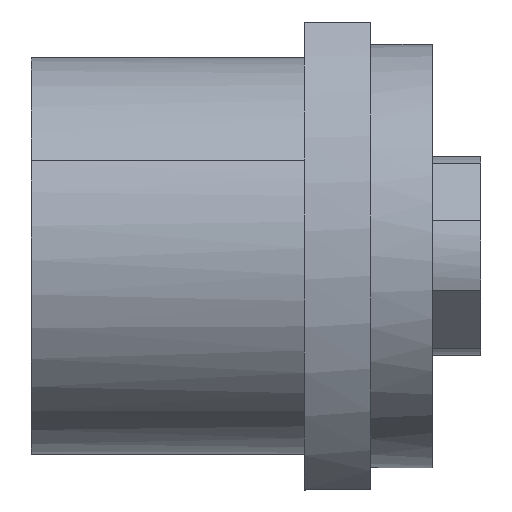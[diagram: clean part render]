
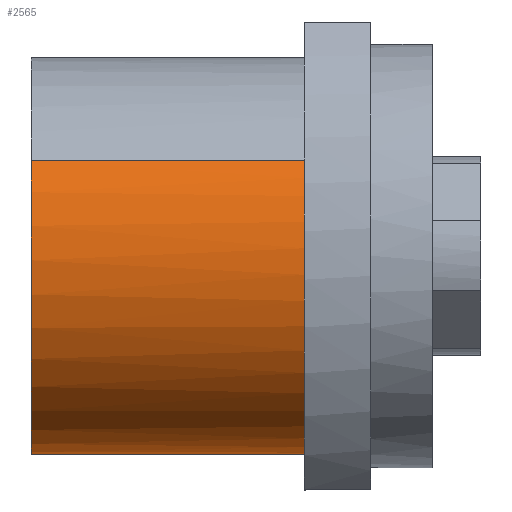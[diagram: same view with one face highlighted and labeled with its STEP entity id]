
A CAD part, top view. The second image highlights one B-rep face of the part: STEP entity #2565.
In plain terms, the highlighted cylindrical face has radius 45 mm (diameter 90 mm), a partial arc.
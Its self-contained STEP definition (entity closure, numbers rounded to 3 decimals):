
#1683=CARTESIAN_POINT('Vertex',(-15.,21.574,39.491)) ;
#1685=CARTESIAN_POINT('Vertex',(-15.,-21.574,-39.491)) ;
#1689=CARTESIAN_POINT('Control Point',(-15.,-21.574,-39.491)) ;
#1690=CARTESIAN_POINT('Control Point',(-15.,-25.323,-37.443)) ;
#1691=CARTESIAN_POINT('Control Point',(-15.,-28.829,-34.95)) ;
#1692=CARTESIAN_POINT('Control Point',(-15.,-32.022,-32.05)) ;
#1693=CARTESIAN_POINT('Control Point',(-15.,-37.658,-25.549)) ;
#1694=CARTESIAN_POINT('Control Point',(-15.,-41.616,-17.909)) ;
#1695=CARTESIAN_POINT('Control Point',(-15.,-43.131,-13.87)) ;
#1696=CARTESIAN_POINT('Control Point',(-15.,-45.172,-5.511)) ;
#1697=CARTESIAN_POINT('Control Point',(-15.,-45.2,3.093)) ;
#1698=CARTESIAN_POINT('Control Point',(-15.,-44.701,7.377)) ;
#1699=CARTESIAN_POINT('Control Point',(-15.,-42.697,15.744)) ;
#1700=CARTESIAN_POINT('Control Point',(-15.,-38.789,23.41)) ;
#1701=CARTESIAN_POINT('Control Point',(-15.,-36.387,26.993)) ;
#1702=CARTESIAN_POINT('Control Point',(-15.,-30.779,33.519)) ;
#1703=CARTESIAN_POINT('Control Point',(-15.,-23.8,38.551)) ;
#1704=CARTESIAN_POINT('Control Point',(-15.,-20.026,40.64)) ;
#1705=CARTESIAN_POINT('Control Point',(-15.,-12.056,43.881)) ;
#1706=CARTESIAN_POINT('Control Point',(-15.,-3.548,45.167)) ;
#1707=CARTESIAN_POINT('Control Point',(-15.,0.763,45.3)) ;
#1708=CARTESIAN_POINT('Control Point',(-15.,7.697,44.685)) ;
#1709=CARTESIAN_POINT('Control Point',(-15.,14.359,42.77)) ;
#1710=CARTESIAN_POINT('Control Point',(-15.,16.846,41.853)) ;
#1711=CARTESIAN_POINT('Control Point',(-15.,19.257,40.757)) ;
#1712=CARTESIAN_POINT('Control Point',(-15.,21.574,39.491)) ;
#2523=CARTESIAN_POINT('Line Origine',(-81.281,21.574,39.491)) ;
#2527=CARTESIAN_POINT('Vertex',(-77.,21.574,39.491)) ;
#2530=CARTESIAN_POINT('Line Origine',(-81.281,-21.574,-39.491)) ;
#2534=CARTESIAN_POINT('Vertex',(-77.,-21.574,-39.491)) ;
#2549=CARTESIAN_POINT('Axis2P3D Location',(-81.281,0.,0.)) ;
#2554=CARTESIAN_POINT('Axis2P3D Location',(-77.,0.,0.)) ;
#2524=DIRECTION('Vector Direction',(-1.,0.,0.)) ;
#2531=DIRECTION('Vector Direction',(-1.,0.,0.)) ;
#2550=DIRECTION('Axis2P3D Direction',(-1.,0.,0.)) ;
#2551=DIRECTION('Axis2P3D XDirection',(0.,-0.479,-0.878)) ;
#2555=DIRECTION('Axis2P3D Direction',(-1.,0.,0.)) ;
#2552=AXIS2_PLACEMENT_3D('Cylinder Axis2P3D',#2549,#2550,#2551) ;
#2556=AXIS2_PLACEMENT_3D('Circle Axis2P3D',#2554,#2555,$) ;
#2560=ORIENTED_EDGE('',*,*,#2536,.F.) ;
#2561=ORIENTED_EDGE('',*,*,#1713,.T.) ;
#2562=ORIENTED_EDGE('',*,*,#2529,.T.) ;
#2563=ORIENTED_EDGE('',*,*,#2558,.T.) ;
#2525=VECTOR('Line Direction',#2524,1.) ;
#2532=VECTOR('Line Direction',#2531,1.) ;
#2565=ADVANCED_FACE('FK30DFF(H)',(#2564),#2553,.T.) ;
#1688=B_SPLINE_CURVE_WITH_KNOTS('',5,(#1689,#1690,#1691,#1692,#1693,#1694,#1695,#1696,#1697,#1698,#1699,#1700,#1701,#1702,#1703,#1704,#1705,#1706,#1707,#1708,#1709,#1710,#1711,#1712),.UNSPECIFIED.,.F.,.U.,(6,3,3,3,3,3,3,6),(0.,30.209,60.418,90.627,120.836,151.045,181.254,199.928),.UNSPECIFIED.) ;
#2557=CIRCLE('generated circle',#2556,45.) ;
#2553=CYLINDRICAL_SURFACE('generated cylinder',#2552,45.) ;
#1713=EDGE_CURVE('',#1686,#1684,#1688,.T.) ;
#2529=EDGE_CURVE('',#1684,#2528,#2526,.T.) ;
#2536=EDGE_CURVE('',#1686,#2535,#2533,.T.) ;
#2558=EDGE_CURVE('',#2528,#2535,#2557,.F.) ;
#2559=EDGE_LOOP('',(#2560,#2561,#2562,#2563)) ;
#2564=FACE_OUTER_BOUND('',#2559,.T.) ;
#2526=LINE('Line',#2523,#2525) ;
#2533=LINE('Line',#2530,#2532) ;
#1684=VERTEX_POINT('',#1683) ;
#1686=VERTEX_POINT('',#1685) ;
#2528=VERTEX_POINT('',#2527) ;
#2535=VERTEX_POINT('',#2534) ;
